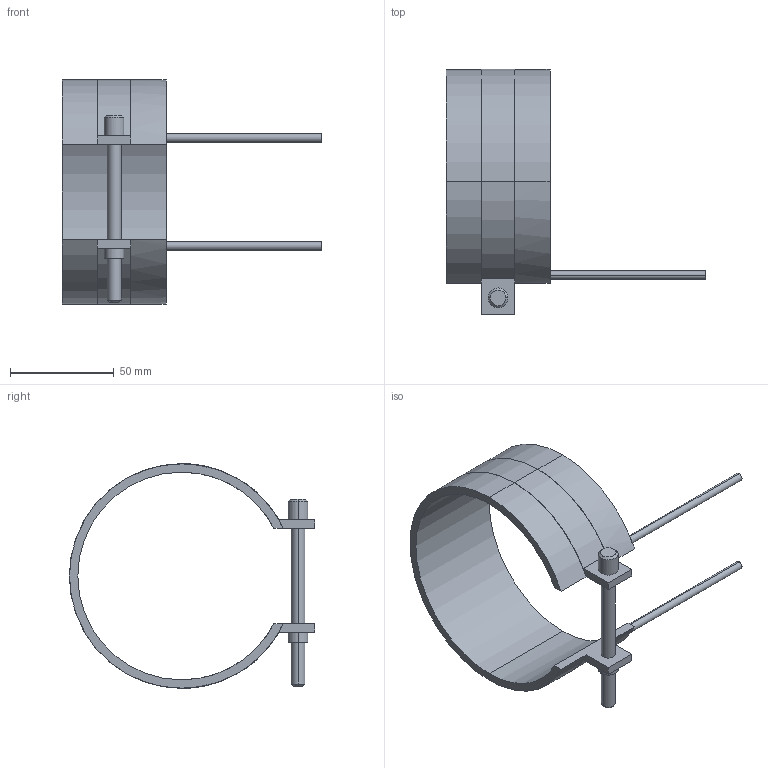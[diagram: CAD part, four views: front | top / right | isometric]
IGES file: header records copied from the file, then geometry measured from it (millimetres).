
Start section: START RECORD GO HERE.
Global section: file name: 14100050.igs; native system: DASSAULT SYSTEMES CATIA V5 R20 - www.3ds.com; preprocessor: CATIA Version 5 Release 20 ; author: Utente; organization: NB04-ASUS; date: 20210403.105039; units: millimetre
Bounding box: 125 x 118.1 x 108.2 mm (x, y, z)
Surface area: 35561.3 mm2 (no closed solid volume)
Topology: 0 solids, 0 shells, 45 faces, 232 edges, 232 vertices
Faces by surface type: revolution 28, plane 17
